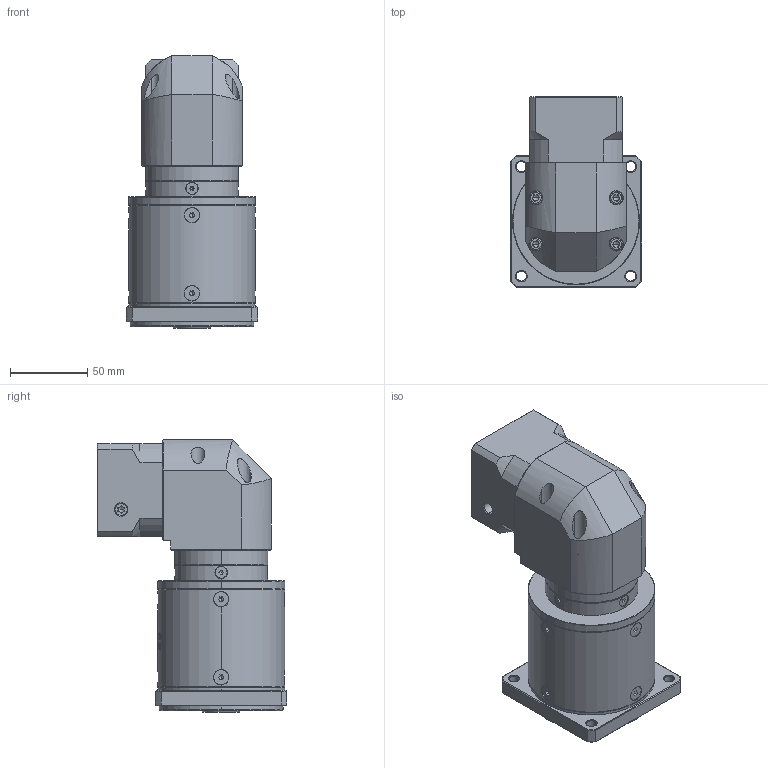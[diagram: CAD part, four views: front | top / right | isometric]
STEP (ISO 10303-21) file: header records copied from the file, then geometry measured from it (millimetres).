
FILE_DESCRIPTION (( 'STEP AP214' ), '1' );
FILE_NAME ('ZFR080-K15-L3-P2-8-38.1-47.14x47.14-M4.step', '2023-08-25T07:26:05', ( '' ), ( '' ), 'SwSTEP 2.0', 'SolidWorks 2016', '' );
FILE_SCHEMA (( 'AUTOMOTIVE_DESIGN' ));
Length unit declared in the file: millimetre
Products named in the file (1): ZFR080-K15-L3-P2-8-38.1-47.14x47.14-M4
Bounding box: 85 x 122.7 x 176 mm (x, y, z)
Volume: 875784.6 mm3; surface area: 107381.5 mm2
Topology: 17 solids, 18 shells, 2421 faces, 6348 edges, 4042 vertices
Faces by surface type: plane 1172, cylinder 438, bspline 390, cone 375, torus 46
Entity records: 123037 total; most frequent: CARTESIAN_POINT 41495, ORIENTED_EDGE 12608, DIRECTION 9779, EDGE_CURVE 6304, VERTEX_POINT 4042, VECTOR 3341, LINE 3341, AXIS2_PLACEMENT_3D 3219
